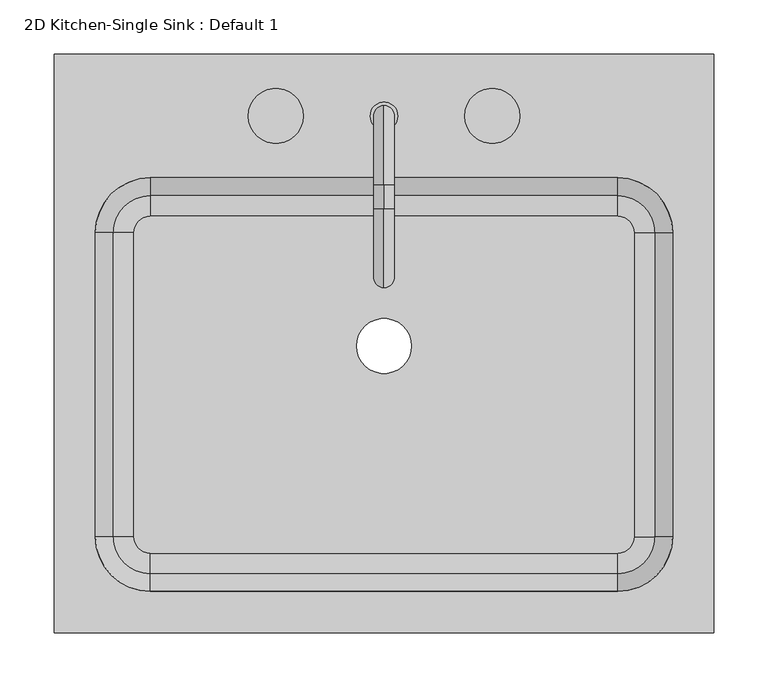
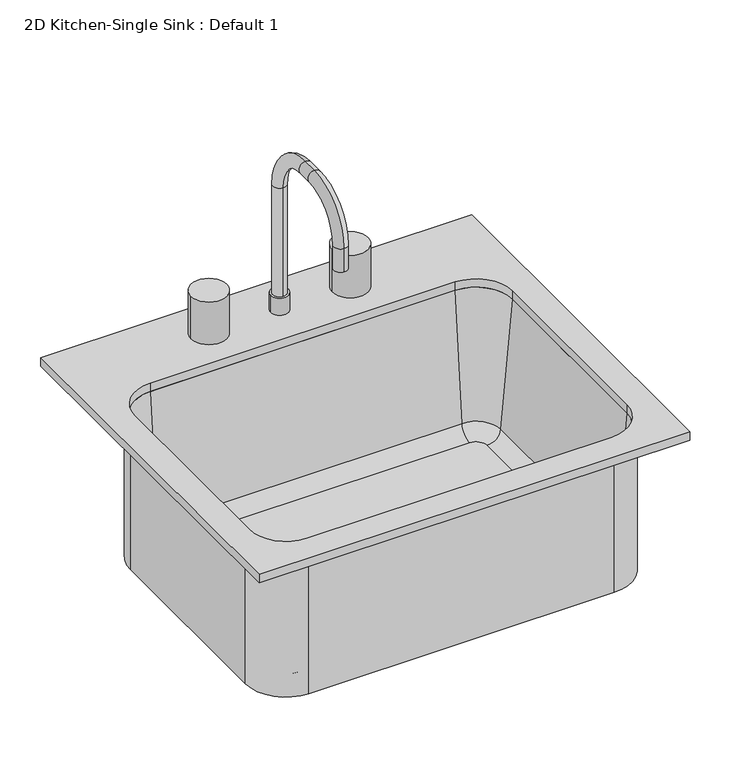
"""IFC4 building model written with IfcOpenShell, lengths in millimetres: flow terminal geometry, 2D Kitchen-Single Sink : Default 1."""

import ifcopenshell
import ifcopenshell.guid

model = None  # the IFC model being written
_history = None  # IfcOwnerHistory: only IFC2X3 demands one
_inside = {}  # id of a spatial element -> (the spatial element, [elements in it])
_under = {}  # id of a project, library or spatial element -> (it, [spatial elements below it])
_declared = {}  # id of a project -> (the project, [libraries it declares])
_typed = {}  # id of a type object -> (the type object, [elements of that type])
_made_of = {}  # id of a material, layer set ... -> (it, [elements and type objects made of it])


def new_model(schema):
    """Start an empty IFC model of exactly this schema.

    Asked for "IFC4X3", IfcOpenShell would pick the latest addendum, in which some entities
    have other attributes; the version numbers below select the first issue.
    IFC2X3 requires an IfcOwnerHistory on every rooted entity: one is made here for all.
    """
    global model, _history
    if schema == "IFC4X3":
        model = ifcopenshell.file(schema_version=(4, 3, 0, 0))
    else:
        model = ifcopenshell.file(schema=schema)
    _inside.clear()
    _under.clear()
    _declared.clear()
    _typed.clear()
    _made_of.clear()
    _history = None
    if model.schema == "IFC2X3":
        org = make("IfcOrganization", Name="unknown")
        user = make(
            "IfcPersonAndOrganization",
            ThePerson=make("IfcPerson", FamilyName="unknown"),
            TheOrganization=org,
        )
        app = make(
            "IfcApplication",
            ApplicationDeveloper=org,
            Version="unknown",
            ApplicationFullName="unknown",
            ApplicationIdentifier="unknown",
        )
        _history = make(
            "IfcOwnerHistory",
            OwningUser=user,
            OwningApplication=app,
            ChangeAction="ADDED",
            CreationDate=0,
        )
    return model


def make(cls, **values):
    """One entity of the class cls with the attributes given. An attribute that is None is left unset."""
    return model.create_entity(
        cls, **{name: value for name, value in values.items() if value is not None}
    )


def rooted(cls, **values):
    """An entity with a GlobalId (a new one), such as an element, a storey or a relation."""
    return make(cls, GlobalId=ifcopenshell.guid.new(), OwnerHistory=_history, **values)


def si_unit(unit_type, name, prefix=None):
    """IfcSIUnit, for example si_unit("LENGTHUNIT", "METRE", prefix="MILLI")."""
    return make("IfcSIUnit", UnitType=unit_type, Prefix=prefix, Name=name)


def assignment(units):
    """IfcUnitAssignment: the units of a project."""
    return None if units is None else make("IfcUnitAssignment", Units=units)


def point(xyz):
    """IfcCartesianPoint."""
    return None if xyz is None else make("IfcCartesianPoint", Coordinates=xyz)


def direction(xyz):
    """IfcDirection."""
    return None if xyz is None else make("IfcDirection", DirectionRatios=xyz)


def frame(location, z_axis=None, x_axis=None):
    """IfcAxis2Placement3D, a coordinate frame: its origin and axes. An axis left out is left unset."""
    return make(
        "IfcAxis2Placement3D",
        Location=point(location),
        Axis=direction(z_axis),
        RefDirection=direction(x_axis),
    )


def frame_2d(location, x_axis=None):
    """IfcAxis2Placement2D, a coordinate frame in the plane: its origin and x axis."""
    return make(
        "IfcAxis2Placement2D", Location=point(location), RefDirection=direction(x_axis)
    )


def origin():
    """The frame at (0, 0, 0) with its axes left unset."""
    return frame((0.0, 0.0, 0.0))


def place(relative_to, where):
    """IfcLocalPlacement: puts the frame where relative to a parent placement (None: the world)."""
    return make(
        "IfcLocalPlacement", PlacementRelTo=relative_to, RelativePlacement=where
    )


def context(
    kind, dimensions, precision=None, world=None, true_north=None, identifier=None
):
    """IfcGeometricRepresentationContext, for example the 3D "Model" context."""
    return make(
        "IfcGeometricRepresentationContext",
        ContextIdentifier=identifier,
        ContextType=kind,
        CoordinateSpaceDimension=dimensions,
        Precision=precision,
        WorldCoordinateSystem=world,
        TrueNorth=true_north,
    )


def project(units=None, contexts=None):
    """IfcProject with its units and contexts."""
    return rooted(
        "IfcProject",
        Name="project",
        RepresentationContexts=contexts,
        UnitsInContext=assignment(units),
    )


def spatial(cls, under=None, at=None, **own):
    """A site, building, storey or space (cls), placed at a placement, below another one or the project."""
    s = rooted(cls, ObjectPlacement=at, **own)
    if under is not None:
        _under.setdefault(under.id(), (under, []))[1].append(s)
    return s


def polyline(points):
    """IfcPolyline through the points."""
    return make("IfcPolyline", Points=[point(p) for p in points])


def circle_curve(where, radius):
    """IfcCircle in the frame where."""
    return make("IfcCircle", Position=where, Radius=radius)


def ellipse_curve(where, semi_axis1, semi_axis2):
    """IfcEllipse in the frame where."""
    return make(
        "IfcEllipse", Position=where, SemiAxis1=semi_axis1, SemiAxis2=semi_axis2
    )


def trimmed(basis, trim1, trim2, sense, master):
    """IfcTrimmedCurve: the piece of a basis curve between two trims."""
    return make(
        "IfcTrimmedCurve",
        BasisCurve=basis,
        Trim1=trim1,
        Trim2=trim2,
        SenseAgreement=sense,
        MasterRepresentation=master,
    )


def segment(curve, same_sense, transition):
    """IfcCompositeCurveSegment."""
    return make(
        "IfcCompositeCurveSegment",
        Transition=transition,
        SameSense=same_sense,
        ParentCurve=curve,
    )


def composite_curve(segments, self_intersect=None):
    """IfcCompositeCurve: segments joined end to end."""
    return make("IfcCompositeCurve", Segments=segments, SelfIntersect=self_intersect)


def outline(outer, holes=None, kind="AREA"):
    """IfcArbitraryClosedProfileDef: a profile drawn as a closed curve; with holes, ...WithVoids."""
    if holes is None:
        return make("IfcArbitraryClosedProfileDef", ProfileType=kind, OuterCurve=outer)
    return make(
        "IfcArbitraryProfileDefWithVoids",
        ProfileType=kind,
        OuterCurve=outer,
        InnerCurves=holes,
    )


def extrude(swept, where, along, depth):
    """IfcExtrudedAreaSolid: the profile swept, set in the frame where, extruded along a direction by depth."""
    return make(
        "IfcExtrudedAreaSolid",
        SweptArea=swept,
        Position=where,
        ExtrudedDirection=direction(along),
        Depth=depth,
    )


def shape(context_of_items, identifier, shape_type, items):
    """IfcShapeRepresentation: the items that make up one representation, for example the "Body"."""
    return make(
        "IfcShapeRepresentation",
        ContextOfItems=context_of_items,
        RepresentationIdentifier=identifier,
        RepresentationType=shape_type,
        Items=items,
    )


def source(mapping_origin, context_of_items, identifier, shape_type, items):
    """IfcRepresentationMap: a shape defined once, which mapped items show again and again."""
    return make(
        "IfcRepresentationMap",
        MappingOrigin=mapping_origin,
        MappedRepresentation=shape(context_of_items, identifier, shape_type, items),
    )


def transform(
    local_origin,
    x_axis=None,
    y_axis=None,
    z_axis=None,
    scale=None,
    scale2=None,
    scale3=None,
    uniform=True,
):
    """IfcCartesianTransformationOperator3D, or its non-uniform kind. x_axis, y_axis, z_axis: its Axis1, 2, 3."""
    if uniform:
        return make(
            "IfcCartesianTransformationOperator3D",
            Axis1=direction(x_axis),
            Axis2=direction(y_axis),
            LocalOrigin=point(local_origin),
            Scale=scale,
            Axis3=direction(z_axis),
        )
    return make(
        "IfcCartesianTransformationOperator3DnonUniform",
        Axis1=direction(x_axis),
        Axis2=direction(y_axis),
        LocalOrigin=point(local_origin),
        Scale=scale,
        Axis3=direction(z_axis),
        Scale2=scale2,
        Scale3=scale3,
    )


def mapped(mapping_source, mapping_target):
    """IfcMappedItem: shows the shape of a source again, moved by a transform."""
    return make(
        "IfcMappedItem", MappingSource=mapping_source, MappingTarget=mapping_target
    )


def made_of(thing, what):
    """Note that an element or type object is made of a material, layer set ...; save() writes the relation."""
    if what is not None:
        _made_of.setdefault(what.id(), (what, []))[1].append(thing)
    return thing


def element(
    cls,
    number,
    at=None,
    inside=None,
    cuts=None,
    type_object=None,
    material=None,
    context=None,
    identifier="Body",
    shape_type=None,
    held_by="IfcProductDefinitionShape",
    body=None,
    shapes=None,
    **own,
):
    """One element of the class cls, such as IfcWall. Its Tag is "e" and its number.

    at: its placement. inside: the storey or other place that contains it. cuts: it is an
    opening in that element (IfcRelVoidsElement). A single representation is given by context,
    identifier, shape_type and body (its items); several are given by shapes. held_by: the class
    of the entity that holds the representations. save() writes the other relations.
    """
    e = rooted(cls, Tag="e%d" % number, ObjectPlacement=at, **own)
    if body is not None:
        shapes = [shape(context, identifier, shape_type, body)]
    if shapes is not None:
        e.Representation = make(held_by, Representations=shapes)
    if inside is not None:
        _inside.setdefault(inside.id(), (inside, []))[1].append(e)
    if cuts is not None:
        rooted(
            "IfcRelVoidsElement", RelatingBuildingElement=cuts, RelatedOpeningElement=e
        )
    if type_object is not None:
        _typed.setdefault(type_object.id(), (type_object, []))[1].append(e)
    return made_of(e, material)


def aggregate(whole, parts):
    """IfcRelAggregates: a whole, such as a stair, and the parts it consists of."""
    return rooted("IfcRelAggregates", RelatingObject=whole, RelatedObjects=parts)


def save(model, path):
    """Write the relations noted so far, then the file.

    IfcRelAggregates (storeys below a building ...), IfcRelContainedInSpatialStructure (elements
    in a storey), IfcRelDefinesByType, IfcRelAssociatesMaterial and IfcRelDeclares: one each for
    every whole, place, type object, material and project.
    """
    for whole, parts in _under.values():
        aggregate(whole, parts)
    for where, things in _inside.values():
        rooted(
            "IfcRelContainedInSpatialStructure",
            RelatedElements=things,
            RelatingStructure=where,
        )
    for kind, things in _typed.values():
        rooted("IfcRelDefinesByType", RelatedObjects=things, RelatingType=kind)
    for what, things in _made_of.values():
        rooted("IfcRelAssociatesMaterial", RelatedObjects=things, RelatingMaterial=what)
    for by, libraries in _declared.values():
        rooted("IfcRelDeclares", RelatingContext=by, RelatedDefinitions=libraries)
    model.write(path)


def plane_surface(at):
    """IfcPlane: the flat surface through the origin of the frame at, square to its z axis."""
    return make("IfcPlane", Position=at)


def cylinder_surface(at, radius):
    """IfcCylindricalSurface: all points at the distance radius from the z axis of the frame at."""
    return make("IfcCylindricalSurface", Position=at, Radius=radius)


def revolved_surface(curve, axis_point, axis_direction):
    """IfcSurfaceOfRevolution: the curve turned about the line through axis_point along axis_direction."""
    return make(
        "IfcSurfaceOfRevolution",
        SweptCurve=make("IfcArbitraryOpenProfileDef", ProfileType="CURVE", Curve=curve),
        AxisPosition=make("IfcAxis1Placement", Location=point(axis_point), Axis=direction(axis_direction)),
    )


def advanced_brep(points, edges, surfaces, faces):
    """IfcAdvancedBrep: a solid bounded by faces that lie on surfaces and meet in shared edges.

    An edge is (start, end): straight between two places in points (the first is 0);
    or (start, end, curve); or (start, end, curve, False) where it runs against its curve.
    A face is (place in surfaces, loops), or (place, loops, False) where it looks against
    its surface's normal. A loop lists edges by number (the first is 1), with a minus sign
    where the edge is run from its end to its start. The first loop is the outer one.
    """
    corners = [point(p) for p in points]
    vertices = [make("IfcVertexPoint", VertexGeometry=c) for c in corners]
    made = []
    for start, end, *more in edges:
        made.append(
            make(
                "IfcEdgeCurve",
                EdgeStart=vertices[start],
                EdgeEnd=vertices[end],
                EdgeGeometry=more[0] if more else make("IfcPolyline", Points=[corners[start], corners[end]]),
                SameSense=more[1] if len(more) > 1 else True,
            )
        )
    hull = []
    for where, loops, *sense in faces:
        bounds = []
        for j, loop in enumerate(loops):
            ring = [make("IfcOrientedEdge", EdgeElement=made[abs(k) - 1], Orientation=k > 0) for k in loop]
            bounds.append(
                make(
                    "IfcFaceOuterBound" if j == 0 else "IfcFaceBound",
                    Bound=make("IfcEdgeLoop", EdgeList=ring),
                    Orientation=True,
                )
            )
        hull.append(make("IfcAdvancedFace", Bounds=bounds, FaceSurface=surfaces[where], SameSense=sense[0] if sense else True))
    return make("IfcAdvancedBrep", Outer=make("IfcClosedShell", CfsFaces=hull))


def flow_terminal_2d_kitchen_single_sink_default_1_f412850b(model_context):
    return source(origin(), model_context, "Body", "SolidModel", [
        advanced_brep(
        [(288.7392406, 104.7391511, 546.1), (231.5892406, 161.8891511, 546.1), (231.5892406, 161.8891511, 762.0), (288.7392406, 104.7391511, 762.0), (288.7392406, -176.2483489, 546.1), (231.5892406, -233.3983489, 546.1), (-200.2107594, -233.3983489, 546.1), (-257.3607594, -176.2483489, 546.1), (-257.3607594, 104.7391511, 546.1), (-200.2107594, 161.8891511, 546.1), (-9.7107594, 0.0, 546.1), (41.0892406, 0.0, 546.1), (246.8776588, 104.7391511, 555.625), (231.5892406, 120.0275693, 555.625), (-200.2107594, 120.0275693, 555.625), (-215.4991776, 104.7391511, 555.625), (-215.4991776, -176.2483489, 555.625), (-200.2107594, -191.5367671, 555.625), (231.5892406, -191.5367671, 555.625), (246.8776588, -176.2483489, 555.625), (-9.7107594, 0.0, 555.625), (41.0892406, 0.0, 555.625), (265.8551678, 104.7391511, 573.0146831), (231.5892406, 139.0050783, 573.0146831), (282.3892406, 104.7391511, 762.0), (231.5892406, 155.5391511, 762.0), (288.7392406, -176.2483489, 762.0), (265.8551678, -176.2483489, 573.0146831), (282.3892406, -176.2483489, 762.0), (231.5892406, -233.3983489, 762.0), (231.5892406, -210.5142761, 573.0146831), (231.5892406, -227.0483489, 762.0), (-200.2107594, -233.3983489, 762.0), (-200.2107594, -210.5142761, 573.0146831), (-200.2107594, -227.0483489, 762.0), (-257.3607594, -176.2483489, 762.0), (-234.4766866, -176.2483489, 573.0146831), (-251.0107594, -176.2483489, 762.0), (-257.3607594, 104.7391511, 762.0), (-234.4766866, 104.7391511, 573.0146831), (-251.0107594, 104.7391511, 762.0), (-200.2107594, 161.8891511, 762.0), (-200.2107594, 139.0050783, 573.0146831), (-200.2107594, 155.5391511, 762.0)],
        [
            (0, 1, circle_curve(frame((231.5892406, 104.7391511, 546.1), z_axis=(0.0, 0.0, 1.0), x_axis=(0.0, 1.0, 0.0)), 57.15)),
            (1, 2),
            (2, 3, circle_curve(frame((231.5892406, 104.7391511, 762.0), z_axis=(0.0, 0.0, -1.0), x_axis=(0.0, 1.0, 0.0)), 57.15)),
            (3, 0),
            (0, 4),
            (4, 5, circle_curve(frame((231.5892406, -176.2483489, 546.1), z_axis=(0.0, 0.0, -1.0), x_axis=(1.0, 0.0, 0.0)), 57.15)),
            (5, 6),
            (6, 7, circle_curve(frame((-200.2107594, -176.2483489, 546.1), z_axis=(0.0, 0.0, -1.0), x_axis=(0.0, -1.0, 0.0)), 57.15)),
            (7, 8),
            (8, 9, circle_curve(frame((-200.2107594, 104.7391511, 546.1), z_axis=(0.0, 0.0, -1.0), x_axis=(-1.0, 0.0, 0.0)), 57.15)),
            (9, 1),
            (10, 11, circle_curve(frame((15.6892406, 0.0, 546.1), z_axis=(0.0, 0.0, 1.0), x_axis=(1.0, 0.0, 0.0)), 25.4)),
            (11, 10, circle_curve(frame((15.6892406, 0.0, 546.1), z_axis=(0.0, 0.0, 1.0), x_axis=(1.0, 0.0, 0.0)), 25.4)),
            (12, 13, circle_curve(frame((231.5892406, 104.7391511, 555.625), z_axis=(0.0, 0.0, 1.0), x_axis=(0.0, 1.0, 0.0)), 15.2884182)),
            (13, 14),
            (14, 15, circle_curve(frame((-200.2107594, 104.7391511, 555.625), z_axis=(0.0, 0.0, 1.0), x_axis=(-1.0, 0.0, 0.0)), 15.2884182)),
            (15, 16),
            (16, 17, circle_curve(frame((-200.2107594, -176.2483489, 555.625), z_axis=(0.0, 0.0, 1.0), x_axis=(0.0, -1.0, 0.0)), 15.2884182)),
            (17, 18),
            (18, 19, circle_curve(frame((231.5892406, -176.2483489, 555.625), z_axis=(0.0, 0.0, 1.0), x_axis=(1.0, 0.0, 0.0)), 15.2884182)),
            (19, 12),
            (20, 21, circle_curve(frame((15.6892406, 0.0, 555.625), z_axis=(0.0, 0.0, -1.0), x_axis=(1.0, 0.0, 0.0)), 25.4)),
            (21, 20, circle_curve(frame((15.6892406, 0.0, 555.625), z_axis=(0.0, 0.0, -1.0), x_axis=(1.0, 0.0, 0.0)), 25.4)),
            (12, 22, circle_curve(frame((246.8776588, 104.7391511, 574.675), z_axis=(0.0, -1.0, 0.0), x_axis=(1.0, 0.0, 0.0)), 19.05)),
            (22, 23, circle_curve(frame((231.5892406, 104.7391511, 573.0146831), z_axis=(0.0, 0.0, 1.0), x_axis=(0.0, 1.0, 0.0)), 34.2659272)),
            (23, 13, circle_curve(frame((231.5892406, 120.0275693, 574.675), z_axis=(-1.0, 0.0, 0.0), x_axis=(0.0, 1.0, 0.0)), 19.05)),
            (22, 24),
            (24, 25, circle_curve(frame((231.5892406, 104.7391511, 762.0), z_axis=(0.0, 0.0, 1.0), x_axis=(0.0, 1.0, 0.0)), 50.8)),
            (25, 23),
            (2, 25),
            (24, 3),
            (3, 26),
            (26, 4),
            (19, 27, circle_curve(frame((246.8776588, -176.2483489, 574.675), z_axis=(0.0, -1.0, 0.0), x_axis=(1.0, 0.0, 0.0)), 19.05)),
            (27, 22),
            (27, 28),
            (28, 24),
            (28, 26),
            (26, 29, circle_curve(frame((231.5892406, -176.2483489, 762.0), z_axis=(0.0, 0.0, -1.0), x_axis=(1.0, 0.0, 0.0)), 57.15)),
            (29, 5),
            (18, 30, circle_curve(frame((231.5892406, -191.5367671, 574.675), z_axis=(-1.0, 0.0, 0.0), x_axis=(0.0, -1.0, 0.0)), 19.05)),
            (30, 27, circle_curve(frame((231.5892406, -176.2483489, 573.0146831), z_axis=(0.0, 0.0, 1.0), x_axis=(1.0, 0.0, 0.0)), 34.2659272)),
            (30, 31),
            (31, 28, circle_curve(frame((231.5892406, -176.2483489, 762.0), z_axis=(0.0, 0.0, 1.0), x_axis=(1.0, 0.0, 0.0)), 50.8)),
            (31, 29),
            (29, 32),
            (32, 6),
            (17, 33, circle_curve(frame((-200.2107594, -191.5367671, 574.675), z_axis=(-1.0, 0.0, 0.0), x_axis=(0.0, -1.0, 0.0)), 19.05)),
            (33, 30),
            (33, 34),
            (34, 31),
            (34, 32),
            (32, 35, circle_curve(frame((-200.2107594, -176.2483489, 762.0), z_axis=(0.0, 0.0, -1.0), x_axis=(0.0, -1.0, 0.0)), 57.15)),
            (35, 7),
            (16, 36, circle_curve(frame((-215.4991776, -176.2483489, 574.675), z_axis=(0.0, 1.0, 0.0), x_axis=(-1.0, 0.0, 0.0)), 19.05)),
            (36, 33, circle_curve(frame((-200.2107594, -176.2483489, 573.0146831), z_axis=(0.0, 0.0, 1.0), x_axis=(0.0, -1.0, 0.0)), 34.2659272)),
            (36, 37),
            (37, 34, circle_curve(frame((-200.2107594, -176.2483489, 762.0), z_axis=(0.0, 0.0, 1.0), x_axis=(0.0, -1.0, 0.0)), 50.8)),
            (37, 35),
            (35, 38),
            (38, 8),
            (15, 39, circle_curve(frame((-215.4991776, 104.7391511, 574.675), z_axis=(0.0, 1.0, 0.0), x_axis=(-1.0, 0.0, 0.0)), 19.05)),
            (39, 36),
            (39, 40),
            (40, 37),
            (40, 38),
            (38, 41, circle_curve(frame((-200.2107594, 104.7391511, 762.0), z_axis=(0.0, 0.0, -1.0), x_axis=(-1.0, 0.0, 0.0)), 57.15)),
            (41, 9),
            (14, 42, circle_curve(frame((-200.2107594, 120.0275693, 574.675), z_axis=(1.0, 0.0, 0.0), x_axis=(0.0, 1.0, 0.0)), 19.05)),
            (42, 39, circle_curve(frame((-200.2107594, 104.7391511, 573.0146831), z_axis=(0.0, 0.0, 1.0), x_axis=(-1.0, 0.0, 0.0)), 34.2659272)),
            (42, 43),
            (43, 40, circle_curve(frame((-200.2107594, 104.7391511, 762.0), z_axis=(0.0, 0.0, 1.0), x_axis=(-1.0, 0.0, 0.0)), 50.8)),
            (43, 41),
            (41, 2),
            (23, 42),
            (25, 43),
            (20, 10),
            (11, 21),
        ],
        [
            cylinder_surface(frame((231.5892406, 104.7391511, 0.0), z_axis=(0.0, 0.0, -1.0), x_axis=(0.0, 1.0, 0.0)), 57.15),
            plane_surface(frame((231.5892406, 104.7391511, 546.1), z_axis=(0.0, 0.0, -1.0), x_axis=(0.0, 1.0, 0.0))),
            plane_surface(frame((231.5892406, 104.7391511, 555.625), z_axis=(0.0, 0.0, 1.0), x_axis=(0.0, 1.0, 0.0))),
            revolved_surface(trimmed(ellipse_curve(frame((231.5892406, 120.0275693, 574.675), z_axis=(1.0, 0.0, 0.0), x_axis=(0.0, 1.0, 0.0)), 19.05, 19.05), [point((231.5892406, 120.0275693, 555.625))], [point((231.5892406, 139.0050783, 573.0146831))], True, "CARTESIAN"), (231.5892406, 104.7391511, 0.0), (0.0, 0.0, -1.0)),
            revolved_surface(polyline([(231.5892406, 139.0050783, 573.0146831), (231.5892406, 155.5391511, 762.0)]), (231.5892406, 104.7391511, 0.0), (0.0, 0.0, -1.0)),
            plane_surface(frame((231.5892406, 104.7391511, 762.0), z_axis=(0.0, 0.0, 1.0), x_axis=(0.0, 1.0, 0.0))),
            plane_surface(frame((288.7392406, 104.7391511, 762.0), z_axis=(1.0, 0.0, 0.0), x_axis=(0.0, -1.0, 0.0))),
            revolved_surface(polyline([(265.9276588, -176.2483489, 574.675), (265.9276588, 104.7391511, 574.675)]), (246.8776588, 104.7391511, 574.675), (0.0, -1.0, 0.0)),
            plane_surface(frame((265.8551678, 104.7391511, 573.0146831), z_axis=(-0.9961946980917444, 0.0, 0.08715574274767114), x_axis=(0.0, -1.0, 0.0))),
            plane_surface(frame((282.3892406, 104.7391511, 762.0), z_axis=(0.0, 0.0, 1.0), x_axis=(0.0, -1.0, 0.0))),
            cylinder_surface(frame((231.5892406, -176.2483489, 0.0), z_axis=(0.0, 0.0, -1.0), x_axis=(1.0, 0.0, 0.0)), 57.15),
            revolved_surface(trimmed(ellipse_curve(frame((246.8776588, -176.2483489, 574.675), z_axis=(0.0, -1.0, 0.0), x_axis=(1.0, 0.0, 0.0)), 19.05, 19.05), [point((246.8776588, -176.2483489, 555.625))], [point((265.8551678, -176.2483489, 573.0146831))], True, "CARTESIAN"), (231.5892406, -176.2483489, 0.0), (0.0, 0.0, -1.0)),
            revolved_surface(polyline([(265.8551678, -176.2483489, 573.0146831), (282.3892406, -176.2483489, 762.0)]), (231.5892406, -176.2483489, 0.0), (0.0, 0.0, -1.0)),
            plane_surface(frame((231.5892406, -176.2483489, 762.0), z_axis=(0.0, 0.0, 1.0), x_axis=(1.0, 0.0, 0.0))),
            plane_surface(frame((231.5892406, -233.3983489, 762.0), z_axis=(0.0, -1.0, 0.0), x_axis=(-1.0, 0.0, 0.0))),
            revolved_surface(polyline([(-200.2107594, -210.5867671, 574.675), (231.5892406, -210.5867671, 574.675)]), (231.5892406, -191.5367671, 574.675), (-1.0, 0.0, 0.0)),
            plane_surface(frame((231.5892406, -210.5142761, 573.0146831), z_axis=(0.0, 0.9961946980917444, 0.08715574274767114), x_axis=(-1.0, 0.0, 0.0))),
            plane_surface(frame((231.5892406, -227.0483489, 762.0), z_axis=(0.0, 0.0, 1.0), x_axis=(-1.0, 0.0, 0.0))),
            cylinder_surface(frame((-200.2107594, -176.2483489, 0.0), z_axis=(0.0, 0.0, -1.0), x_axis=(0.0, -1.0, 0.0)), 57.15),
            revolved_surface(trimmed(ellipse_curve(frame((-200.2107594, -191.5367671, 574.675), z_axis=(-1.0, 0.0, 0.0), x_axis=(0.0, -1.0, 0.0)), 19.05, 19.05), [point((-200.2107594, -191.5367671, 555.625))], [point((-200.2107594, -210.5142761, 573.0146831))], True, "CARTESIAN"), (-200.2107594, -176.2483489, 0.0), (0.0, 0.0, -1.0)),
            revolved_surface(polyline([(-200.2107594, -210.5142761, 573.0146831), (-200.2107594, -227.0483489, 762.0)]), (-200.2107594, -176.2483489, 0.0), (0.0, 0.0, -1.0)),
            plane_surface(frame((-200.2107594, -176.2483489, 762.0), z_axis=(0.0, 0.0, 1.0), x_axis=(0.0, -1.0, 0.0))),
            plane_surface(frame((-257.3607594, -176.2483489, 762.0), z_axis=(-1.0, 0.0, 0.0), x_axis=(0.0, 1.0, 0.0))),
            revolved_surface(polyline([(-234.5491776, 104.73915110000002, 574.675), (-234.5491776, -176.2483489, 574.675)]), (-215.4991776, -176.2483489, 574.675), (0.0, 1.0, 0.0)),
            plane_surface(frame((-234.4766866, -176.2483489, 573.0146831), z_axis=(0.9961946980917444, 0.0, 0.08715574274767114), x_axis=(0.0, 1.0, 0.0))),
            plane_surface(frame((-251.0107594, -176.2483489, 762.0), z_axis=(0.0, 0.0, 1.0), x_axis=(0.0, 1.0, 0.0))),
            cylinder_surface(frame((-200.2107594, 104.7391511, 0.0), z_axis=(0.0, 0.0, -1.0), x_axis=(-1.0, 0.0, 0.0)), 57.15),
            revolved_surface(trimmed(ellipse_curve(frame((-215.4991776, 104.7391511, 574.675), z_axis=(0.0, 1.0, 0.0), x_axis=(-1.0, 0.0, 0.0)), 19.05, 19.05), [point((-215.4991776, 104.7391511, 555.625))], [point((-234.4766866, 104.7391511, 573.0146831))], True, "CARTESIAN"), (-200.2107594, 104.7391511, 0.0), (0.0, 0.0, -1.0)),
            revolved_surface(polyline([(-234.4766866, 104.7391511, 573.0146831), (-251.0107594, 104.7391511, 762.0)]), (-200.2107594, 104.7391511, 0.0), (0.0, 0.0, -1.0)),
            plane_surface(frame((-200.2107594, 104.7391511, 762.0), z_axis=(0.0, 0.0, 1.0), x_axis=(-1.0, 0.0, 0.0))),
            plane_surface(frame((-200.2107594, 161.8891511, 762.0), z_axis=(0.0, 1.0, 0.0), x_axis=(1.0, 0.0, 0.0))),
            revolved_surface(polyline([(231.5892406, 139.0775693, 574.675), (-200.2107594, 139.0775693, 574.675)]), (-200.2107594, 120.0275693, 574.675), (1.0, 0.0, 0.0)),
            plane_surface(frame((-200.2107594, 139.0050783, 573.0146831), z_axis=(0.0, -0.9961946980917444, 0.08715574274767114), x_axis=(1.0, 0.0, 0.0))),
            plane_surface(frame((-200.2107594, 155.5391511, 762.0), z_axis=(0.0, 0.0, 1.0), x_axis=(1.0, 0.0, 0.0))),
            revolved_surface(polyline([(41.0892406, 0.0, 546.1), (41.0892406, 0.0, 555.625)]), (15.6892406, 0.0, 0.0), (0.0, 0.0, -1.0)),
        ],
        [
            (0, [[1, 2, 3, 4]]),
            (1, [[-1, 5, 6, 7, 8, 9, 10, 11], [12, 13]]),
            (2, [[14, 15, 16, 17, 18, 19, 20, 21], [22, 23]]),
            (3, [[-14, 24, 25, 26]]),
            (4, [[-25, 27, 28, 29]]),
            (5, [[-3, 30, -28, 31]]),
            (6, [[-4, 32, 33, -5]]),
            (7, [[-24, -21, 34, 35]]),
            (8, [[-27, -35, 36, 37]]),
            (9, [[-31, -37, 38, -32]]),
            (10, [[-33, 39, 40, -6]]),
            (11, [[-34, -20, 41, 42]]),
            (12, [[-36, -42, 43, 44]]),
            (13, [[-38, -44, 45, -39]]),
            (14, [[-40, 46, 47, -7]]),
            (15, [[-41, -19, 48, 49]]),
            (16, [[-43, -49, 50, 51]]),
            (17, [[-45, -51, 52, -46]]),
            (18, [[-47, 53, 54, -8]]),
            (19, [[-48, -18, 55, 56]]),
            (20, [[-50, -56, 57, 58]]),
            (21, [[-52, -58, 59, -53]]),
            (22, [[-54, 60, 61, -9]]),
            (23, [[-55, -17, 62, 63]]),
            (24, [[-57, -63, 64, 65]]),
            (25, [[-59, -65, 66, -60]]),
            (26, [[-61, 67, 68, -10]]),
            (27, [[-62, -16, 69, 70]]),
            (28, [[-64, -70, 71, 72]]),
            (29, [[-66, -72, 73, -67]]),
            (30, [[-2, -11, -68, 74]]),
            (31, [[-26, 75, -69, -15]]),
            (32, [[-29, 76, -71, -75]]),
            (33, [[-30, -74, -73, -76]]),
            (34, [[-22, 77, -13, 78]]),
            (34, [[-23, -78, -12, -77]]),
        ],
    ),
        advanced_brep(
        [(2.9892406, 212.6891511, 800.1), (28.3892406, 212.6891511, 800.1), (15.6892406, 222.2141511, 800.1), (15.6892406, 203.1641511, 800.1), (2.9892406, 212.6891511, 774.7), (28.3892406, 212.6891511, 774.7), (15.6892406, 222.2141511, 962.025), (15.6892406, 203.1641511, 962.025), (15.6892406, 149.1891511, 1035.05), (15.6892406, 149.1891511, 1016.0), (15.6892406, 126.9641511, 1035.05), (15.6892406, 126.9641511, 1016.0), (15.6892406, 53.9391511, 962.025), (15.6892406, 72.9891511, 962.025), (15.6892406, 53.9391511, 927.1), (15.6892406, 72.9891511, 927.1)],
        [
            (0, 1, circle_curve(frame((15.6892406, 212.6891511, 800.1), z_axis=(0.0, 0.0, 1.0), x_axis=(1.0, 0.0, 0.0)), 12.7)),
            (1, 0, circle_curve(frame((15.6892406, 212.6891511, 800.1), z_axis=(0.0, 0.0, 1.0), x_axis=(1.0, 0.0, 0.0)), 12.7)),
            (2, 3, circle_curve(frame((15.6892406, 212.6891511, 800.1), z_axis=(0.0, 0.0, -1.0), x_axis=(0.0, -1.0, 0.0)), 9.525)),
            (3, 2, circle_curve(frame((15.6892406, 212.6891511, 800.1), z_axis=(0.0, 0.0, -1.0), x_axis=(0.0, -1.0, 0.0)), 9.525)),
            (4, 5, circle_curve(frame((15.6892406, 212.6891511, 774.7), z_axis=(0.0, 0.0, -1.0), x_axis=(1.0, 0.0, 0.0)), 12.7)),
            (5, 4, circle_curve(frame((15.6892406, 212.6891511, 774.7), z_axis=(0.0, 0.0, -1.0), x_axis=(1.0, 0.0, 0.0)), 12.7)),
            (0, 4),
            (5, 1),
            (6, 7, circle_curve(frame((15.6892406, 212.6891511, 962.025), z_axis=(0.0, 0.0, -1.0), x_axis=(0.0, -1.0, 0.0)), 9.525)),
            (7, 3),
            (2, 6),
            (7, 6, circle_curve(frame((15.6892406, 212.6891511, 962.025), z_axis=(0.0, 0.0, -1.0), x_axis=(0.0, -1.0, 0.0)), 9.525)),
            (6, 8, circle_curve(frame((15.6892406, 149.1891511, 962.025), z_axis=(1.0, 0.0, 0.0), x_axis=(0.0, 1.0, 0.0)), 73.025)),
            (8, 9, circle_curve(frame((15.6892406, 149.1891511, 1025.525), z_axis=(0.0, 1.0, 0.0), x_axis=(0.0, 0.0, -1.0)), 9.525)),
            (9, 7, circle_curve(frame((15.6892406, 149.1891511, 962.025), z_axis=(-1.0, 0.0, 0.0), x_axis=(0.0, 1.0, 0.0)), 53.975)),
            (9, 8, circle_curve(frame((15.6892406, 149.1891511, 1025.525), z_axis=(0.0, 1.0, 0.0), x_axis=(0.0, 0.0, -1.0)), 9.525)),
            (8, 10),
            (10, 11, circle_curve(frame((15.6892406, 126.9641511, 1025.525), z_axis=(0.0, 1.0, 0.0), x_axis=(0.0, 0.0, -1.0)), 9.525)),
            (11, 9),
            (11, 10, circle_curve(frame((15.6892406, 126.9641511, 1025.525), z_axis=(0.0, 1.0, 0.0), x_axis=(0.0, 0.0, -1.0)), 9.525)),
            (10, 12, circle_curve(frame((15.6892406, 126.9641511, 962.025), z_axis=(1.0, 0.0, 0.0), x_axis=(0.0, 0.0, 1.0)), 73.025)),
            (12, 13, circle_curve(frame((15.6892406, 63.4641511, 962.025), z_axis=(0.0, 0.0, 1.0), x_axis=(0.0, 1.0, 0.0)), 9.525)),
            (13, 11, circle_curve(frame((15.6892406, 126.9641511, 962.025), z_axis=(-1.0, 0.0, 0.0), x_axis=(0.0, 0.0, 1.0)), 53.975)),
            (13, 12, circle_curve(frame((15.6892406, 63.4641511, 962.025), z_axis=(0.0, 0.0, 1.0), x_axis=(0.0, 1.0, 0.0)), 9.525)),
            (14, 15, circle_curve(frame((15.6892406, 63.4641511, 927.1), z_axis=(0.0, 0.0, -1.0), x_axis=(0.0, 1.0, 0.0)), 9.525)),
            (15, 14, circle_curve(frame((15.6892406, 63.4641511, 927.1), z_axis=(0.0, 0.0, -1.0), x_axis=(0.0, 1.0, 0.0)), 9.525)),
            (12, 14),
            (15, 13),
        ],
        [
            plane_surface(frame((28.3892406, 212.6891511, 800.1), z_axis=(0.0, 0.0, 1.0), x_axis=(0.0, 1.0, 0.0))),
            plane_surface(frame((28.3892406, 212.6891511, 774.7), z_axis=(0.0, 0.0, -1.0), x_axis=(0.0, -1.0, 0.0))),
            cylinder_surface(frame((15.6892406, 212.6891511, 774.7), z_axis=(0.0, 0.0, 1.0), x_axis=(1.0, 0.0, 0.0)), 12.7),
            cylinder_surface(frame((15.6892406, 212.6891511, 774.7), z_axis=(0.0, 0.0, -1.0), x_axis=(0.0, -1.0, 0.0)), 9.525),
            revolved_surface(trimmed(ellipse_curve(frame((15.6892406, 212.6891511, 962.025), z_axis=(0.0, 0.0, -1.0), x_axis=(0.0, -1.0, 0.0)), 9.525, 9.525), [point((15.6892406, 222.2141511, 962.025))], [point((15.6892406, 203.1641511, 962.025))], True, "CARTESIAN"), (15.6892406, 149.1891511, 962.025), (1.0, 0.0, 0.0)),
            revolved_surface(trimmed(ellipse_curve(frame((15.6892406, 212.6891511, 962.025), z_axis=(0.0, 0.0, -1.0), x_axis=(0.0, -1.0, 0.0)), 9.525, 9.525), [point((15.6892406, 203.1641511, 962.025))], [point((15.6892406, 222.2141511, 962.025))], True, "CARTESIAN"), (15.6892406, 149.1891511, 962.025), (1.0, 0.0, 0.0)),
            cylinder_surface(frame((15.6892406, 149.1891511, 1025.525), z_axis=(0.0, 1.0, 0.0), x_axis=(0.0, 0.0, -1.0)), 9.525),
            revolved_surface(trimmed(ellipse_curve(frame((15.6892406, 126.9641511, 1025.525), z_axis=(0.0, 1.0, 0.0), x_axis=(0.0, 0.0, -1.0)), 9.525, 9.525), [point((15.6892406, 126.9641511, 1035.05))], [point((15.6892406, 126.9641511, 1016.0))], True, "CARTESIAN"), (15.6892406, 126.9641511, 962.025), (1.0, 0.0, 0.0)),
            revolved_surface(trimmed(ellipse_curve(frame((15.6892406, 126.9641511, 1025.525), z_axis=(0.0, 1.0, 0.0), x_axis=(0.0, 0.0, -1.0)), 9.525, 9.525), [point((15.6892406, 126.9641511, 1016.0))], [point((15.6892406, 126.9641511, 1035.05))], True, "CARTESIAN"), (15.6892406, 126.9641511, 962.025), (1.0, 0.0, 0.0)),
            plane_surface(frame((15.6892406, 53.9391511, 927.1), z_axis=(0.0, 0.0, -1.0), x_axis=(-1.0, 0.0, 0.0))),
            cylinder_surface(frame((15.6892406, 63.4641511, 962.025), z_axis=(0.0, 0.0, 1.0), x_axis=(0.0, 1.0, 0.0)), 9.525),
        ],
        [
            (0, [[1, 2], [3, 4]]),
            (1, [[5, 6]]),
            (2, [[-1, 7, -6, 8]]),
            (2, [[-2, -8, -5, -7]]),
            (3, [[9, 10, -3, 11]]),
            (3, [[12, -11, -4, -10]]),
            (4, [[-9, 13, 14, 15]]),
            (5, [[-12, -15, 16, -13]]),
            (6, [[-14, 17, 18, 19]]),
            (6, [[-16, -19, 20, -17]]),
            (7, [[-18, 21, 22, 23]]),
            (8, [[-20, -23, 24, -21]]),
            (9, [[25, 26]]),
            (10, [[-22, 27, -26, 28]]),
            (10, [[-24, -28, -25, -27]]),
        ],
    ),
        extrude(outline(composite_curve([segment(trimmed(circle_curve(frame_2d((-84.3107594, 212.6891511)), 25.4), [point((-109.7107594, 212.6891511))], [point((-58.9107594, 212.6891511))], False, "CARTESIAN"), True, "CONTINUOUS"), segment(trimmed(circle_curve(frame_2d((-84.3107594, 212.6891511)), 25.4), [point((-58.9107594, 212.6891511))], [point((-109.7107594, 212.6891511))], False, "CARTESIAN"), True, "CONTINUOUS")], self_intersect=False)), frame((0.0, 0.0, 774.7), z_axis=(0.0, 0.0, 1.0), x_axis=(1.0, 0.0, 0.0)), (0.0, 0.0, 1.0), 63.5),
        extrude(outline(composite_curve([segment(trimmed(circle_curve(frame_2d((115.6892406, 212.6891511)), 25.4), [point((90.2892406, 212.6891511))], [point((141.0892406, 212.6891511))], False, "CARTESIAN"), True, "CONTINUOUS"), segment(trimmed(circle_curve(frame_2d((115.6892406, 212.6891511)), 25.4), [point((141.0892406, 212.6891511))], [point((90.2892406, 212.6891511))], False, "CARTESIAN"), True, "CONTINUOUS")], self_intersect=False)), frame((0.0, 0.0, 774.7), z_axis=(0.0, 0.0, 1.0), x_axis=(1.0, 0.0, 0.0)), (0.0, 0.0, 1.0), 63.5),
        extrude(outline(polyline([(320.4892406, 269.8391511), (320.4892406, -265.1483489), (-289.1107594, -265.1483489), (-289.1107594, 269.8391511), (320.4892406, 269.8391511)]), holes=[composite_curve([segment(polyline([(231.5892406, 155.5391511), (-200.2107594, 155.5391511)]), True, "CONTINUOUS"), segment(trimmed(circle_curve(frame_2d((-200.2107594, 104.7391511)), 50.8), [point((-200.2107594, 155.5391511))], [point((-251.0107594, 104.7391511))], True, "CARTESIAN"), True, "CONTINUOUS"), segment(polyline([(-251.0107594, 104.7391511), (-251.0107594, -176.2483489)]), True, "CONTINUOUS"), segment(trimmed(circle_curve(frame_2d((-200.2107594, -176.2483489)), 50.8), [point((-251.0107594, -176.2483489))], [point((-200.2107594, -227.0483489))], True, "CARTESIAN"), True, "CONTINUOUS"), segment(polyline([(-200.2107594, -227.0483489), (231.5892406, -227.0483489)]), True, "CONTINUOUS"), segment(trimmed(circle_curve(frame_2d((231.5892406, -176.2483489)), 50.8), [point((231.5892406, -227.0483489))], [point((282.3892406, -176.2483489))], True, "CARTESIAN"), True, "CONTINUOUS"), segment(polyline([(282.3892406, -176.2483489), (282.3892406, 104.7391511)]), True, "CONTINUOUS"), segment(trimmed(circle_curve(frame_2d((231.5892406, 104.7391511)), 50.8), [point((282.3892406, 104.7391511))], [point((231.5892406, 155.5391511))], True, "CARTESIAN"), True, "CONTINUOUS")], self_intersect=False)]), frame((0.0, 0.0, 762.0), z_axis=(0.0, 0.0, 1.0), x_axis=(1.0, 0.0, 0.0)), (0.0, 0.0, 1.0), 12.7),
    ])


if __name__ == "__main__":
    model = new_model("IFC4")
    model_context = context("Model", 3, world=origin())
    ifc_project = project(units=[si_unit("LENGTHUNIT", "METRE", prefix="MILLI")], contexts=[model_context])
    site = spatial("IfcSite", under=ifc_project)
    building = spatial("IfcBuilding", under=site)
    placement = place(None, origin())
    flow_terminal_2d_kitchen_single_sink_default_1_shape = flow_terminal_2d_kitchen_single_sink_default_1_f412850b(model_context)
    element("IfcFlowTerminal", 1, ObjectType="2D Kitchen-Single Sink : Default 1", at=placement, inside=building, context=model_context, shape_type="MappedRepresentation", body=[
        mapped(flow_terminal_2d_kitchen_single_sink_default_1_shape, transform((0.0, 0.0, 0.0), x_axis=(1.0, 0.0, 0.0), y_axis=(0.0, 1.0, 0.0), z_axis=(0.0, 0.0, 1.0))),
    ])
    save(model, "model.ifc")
